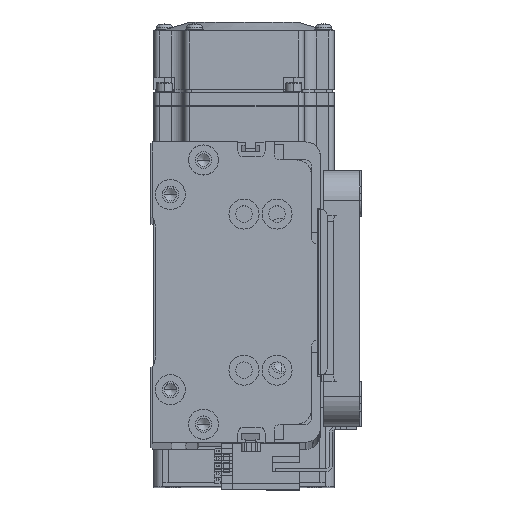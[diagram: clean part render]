
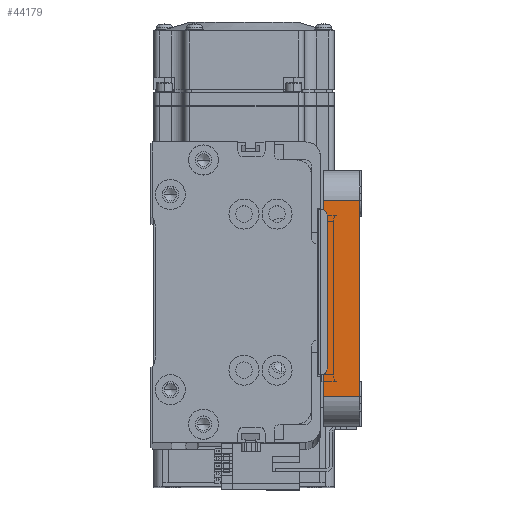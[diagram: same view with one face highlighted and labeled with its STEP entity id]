
A CAD part, top view. The second image highlights one B-rep face of the part: STEP entity #44179.
In plain terms, the highlighted planar face has unit normal (0, 0, 1) as drawn and (-1, 0, 0) by its records, which use the part's own axes.
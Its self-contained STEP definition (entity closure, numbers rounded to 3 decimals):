
#486 = CARTESIAN_POINT ( 'NONE',  ( -55., -32.5, 0. ) ) ;
#6288 = AXIS2_PLACEMENT_3D ( 'NONE', #22136, #11300, #49907 ) ;
#7459 = CARTESIAN_POINT ( 'NONE',  ( -55., -32.5, 12. ) ) ;
#8258 = VERTEX_POINT ( 'NONE', #62644 ) ;
#8519 = ORIENTED_EDGE ( 'NONE', *, *, #36844, .T. ) ;
#10857 = CARTESIAN_POINT ( 'NONE',  ( -55., -32.5, 12. ) ) ;
#11074 = PLANE ( 'NONE',  #6288 ) ;
#11300 = DIRECTION ( 'NONE',  ( 1., 0., 0. ) ) ;
#17470 = EDGE_CURVE ( 'NONE', #24543, #8258, #32245, .T. ) ;
#17517 = VECTOR ( 'NONE', #36282, 1000. ) ;
#17985 = LINE ( 'NONE', #10857, #47340 ) ;
#19030 = VERTEX_POINT ( 'NONE', #7459 ) ;
#20026 = EDGE_CURVE ( 'NONE', #24543, #19030, #58961, .T. ) ;
#20211 = FACE_OUTER_BOUND ( 'NONE', #42820, .T. ) ;
#21643 = DIRECTION ( 'NONE',  ( 0., -1., 0. ) ) ;
#22136 = CARTESIAN_POINT ( 'NONE',  ( -55., -42.5, 12. ) ) ;
#23539 = VECTOR ( 'NONE', #21643, 1000. ) ;
#24543 = VERTEX_POINT ( 'NONE', #25818 ) ;
#25818 = CARTESIAN_POINT ( 'NONE',  ( -55., 32.5, 12. ) ) ;
#29989 = DIRECTION ( 'NONE',  ( 0., -1., 0. ) ) ;
#32245 = LINE ( 'NONE', #69306, #17517 ) ;
#36282 = DIRECTION ( 'NONE',  ( 0., 0., -1. ) ) ;
#36844 = EDGE_CURVE ( 'NONE', #49729, #19030, #17985, .T. ) ;
#40873 = CARTESIAN_POINT ( 'NONE',  ( -55., -42.5, 12. ) ) ;
#42820 = EDGE_LOOP ( 'NONE', ( #43292, #8519, #61543, #69838 ) ) ;
#43292 = ORIENTED_EDGE ( 'NONE', *, *, #60423, .T. ) ;
#43880 = CARTESIAN_POINT ( 'NONE',  ( -55., -42.5, 0. ) ) ;
#44179 = ADVANCED_FACE ( 'NONE', ( #20211 ), #11074, .F. ) ;
#44277 = VECTOR ( 'NONE', #29989, 1000. ) ;
#47340 = VECTOR ( 'NONE', #60816, 1000. ) ;
#49729 = VERTEX_POINT ( 'NONE', #486 ) ;
#49907 = DIRECTION ( 'NONE',  ( 0., 0., -1. ) ) ;
#52924 = LINE ( 'NONE', #43880, #23539 ) ;
#58961 = LINE ( 'NONE', #40873, #44277 ) ;
#60423 = EDGE_CURVE ( 'NONE', #8258, #49729, #52924, .T. ) ;
#60816 = DIRECTION ( 'NONE',  ( 0., 0., 1. ) ) ;
#61543 = ORIENTED_EDGE ( 'NONE', *, *, #20026, .F. ) ;
#62644 = CARTESIAN_POINT ( 'NONE',  ( -55., 32.5, 0. ) ) ;
#69306 = CARTESIAN_POINT ( 'NONE',  ( -55., 32.5, 12. ) ) ;
#69838 = ORIENTED_EDGE ( 'NONE', *, *, #17470, .T. ) ;
